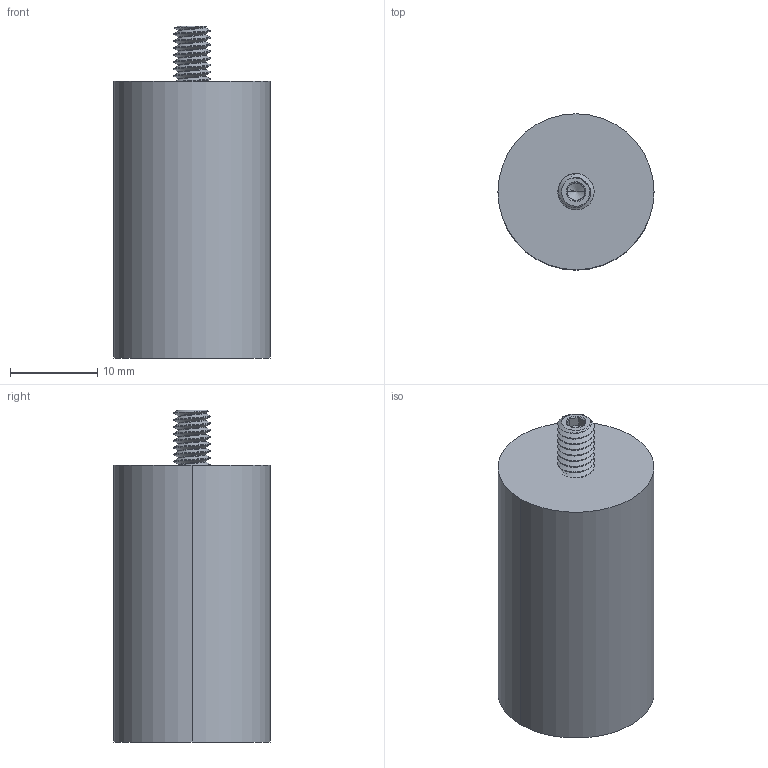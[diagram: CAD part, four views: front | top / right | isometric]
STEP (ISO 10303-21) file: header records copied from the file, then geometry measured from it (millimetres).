
FILE_DESCRIPTION (( 'STEP AP203' ), '1' );
FILE_NAME ('FDPCK-.5PULTRUD-STUD-8-32-S.step', '2019-09-11T18:22:44', ( 'ydmin' ), ( '' ), 'SwSTEP 2.0', 'SolidWorks 2017', '' );
FILE_SCHEMA (( 'CONFIG_CONTROL_DESIGN' ));
Length unit declared in the file: inch
Products named in the file (1): FDPCK-.5PULTRUD-STUD-8-32-S
Bounding box: 17.91 x 17.91 x 38.1 mm (x, y, z)
Volume: 5357.7 mm3; surface area: 3581.9 mm2
Topology: 2 solids, 2 shells, 88 faces, 229 edges, 142 vertices
Faces by surface type: cylinder 52, cone 18, plane 15, bspline 3
Entity records: 6404 total; most frequent: CARTESIAN_POINT 4505, ORIENTED_EDGE 450, DIRECTION 314, EDGE_CURVE 225, VERTEX_POINT 142, AXIS2_PLACEMENT_3D 117, EDGE_LOOP 91, FACE_OUTER_BOUND 88
